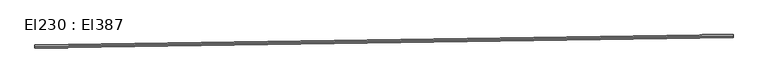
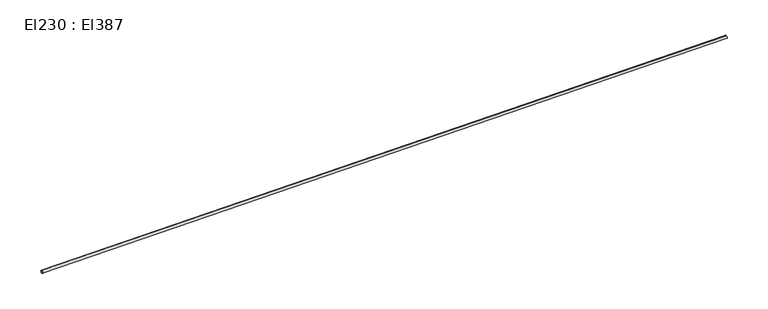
"""IFC4 building model written with IfcOpenShell, lengths in millimetres: cable carrier segment geometry, El230 : El387."""

from ifc_helpers import new_model, si_unit, point, frame, frame_2d, origin, place, context, project, spatial, circle_curve, trimmed, segment, composite_curve, outline, extrude, source, transform, mapped, element, save


def el230_el387_b7c09549(model_context):
    return source(origin(), model_context, "Body", "SweptSolid", [
        extrude(outline(composite_curve([segment(trimmed(circle_curve(frame_2d((0.0, -9.5)), 9.5), [point((0.0, -19.0))], [point((0.0, 0.0))], False, "CARTESIAN"), True, "CONTINUOUS"), segment(trimmed(circle_curve(frame_2d((0.0, -9.5)), 9.5), [point((0.0, 0.0))], [point((0.0, -19.0))], False, "CARTESIAN"), True, "CONTINUOUS")], self_intersect=False)), frame((19281.7046511, 12790.7505745, 1509.5), z_axis=(0.9998852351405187, 0.015149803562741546, 0.0), x_axis=(-0.015149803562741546, 0.9998852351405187, 0.0)), (0.0, 0.0, 1.0), 4826.69),
    ])


if __name__ == "__main__":
    model = new_model("IFC4")
    model_context = context("Model", 3, world=origin())
    ifc_project = project(units=[si_unit("LENGTHUNIT", "METRE", prefix="MILLI")], contexts=[model_context])
    site = spatial("IfcSite", under=ifc_project)
    building = spatial("IfcBuilding", under=site)
    placement = place(None, origin())
    el230_el387_shape = el230_el387_b7c09549(model_context)
    element("IfcCableCarrierSegment", 1, ObjectType="El230 : El387", at=placement, inside=building, context=model_context, shape_type="MappedRepresentation", body=[
        mapped(el230_el387_shape, transform((0.0, 0.0, 0.0), x_axis=(1.0, 0.0, 0.0), y_axis=(0.0, 1.0, 0.0), z_axis=(0.0, 0.0, 1.0))),
    ])
    save(model, "model.ifc")
